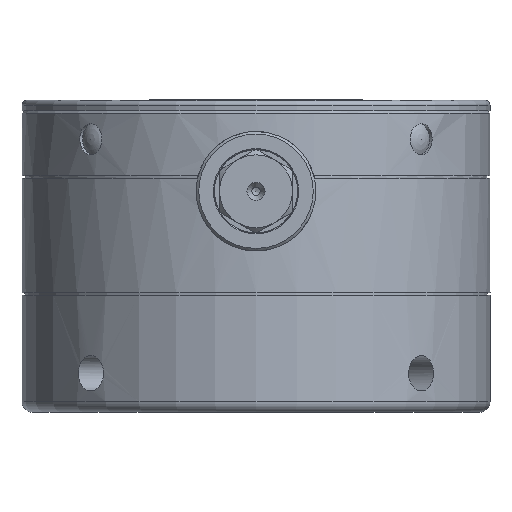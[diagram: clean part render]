
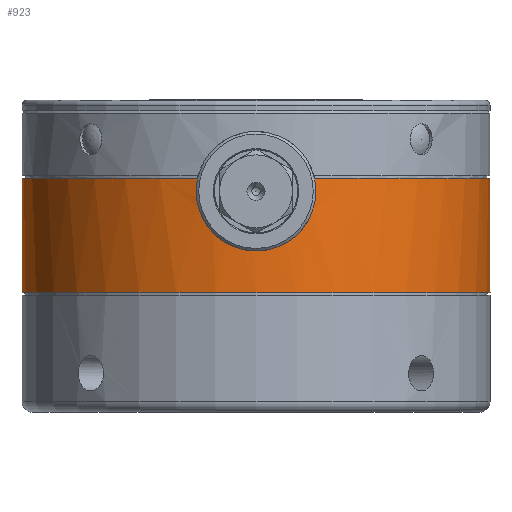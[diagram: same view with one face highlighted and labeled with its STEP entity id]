
A CAD part, left-side view. The second image highlights one B-rep face of the part: STEP entity #923.
In plain terms, the highlighted cylindrical face has radius 45 mm (diameter 90 mm), a full revolution.
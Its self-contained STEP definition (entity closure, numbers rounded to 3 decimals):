
#923 = ADVANCED_FACE( '', ( #2374, #2375 ), #2376, .T. );
#2374 = FACE_OUTER_BOUND( '', #4407, .T. );
#2375 = FACE_OUTER_BOUND( '', #4408, .T. );
#2376 = CYLINDRICAL_SURFACE( '', #4409, 45. );
#4407 = EDGE_LOOP( '', ( #7565, #7566, #7567, #7568 ) );
#4408 = EDGE_LOOP( '', ( #7569 ) );
#4409 = AXIS2_PLACEMENT_3D( '', #7570, #7571, #7572 );
#7565 = ORIENTED_EDGE( '', *, *, #12109, .F. );
#7566 = ORIENTED_EDGE( '', *, *, #12708, .F. );
#7567 = ORIENTED_EDGE( '', *, *, #12709, .F. );
#7568 = ORIENTED_EDGE( '', *, *, #12710, .F. );
#7569 = ORIENTED_EDGE( '', *, *, #12711, .T. );
#7570 = CARTESIAN_POINT( '', ( 0., 0., 54. ) );
#7571 = DIRECTION( '', ( 0., 0., 1. ) );
#7572 = DIRECTION( '', ( 1., 0., 0. ) );
#12109 = EDGE_CURVE( '', #14316, #14318, #14319, .T. );
#12708 = EDGE_CURVE( '', #15326, #14316, #15327, .T. );
#12709 = EDGE_CURVE( '', #15328, #15326, #15329, .T. );
#12710 = EDGE_CURVE( '', #14318, #15328, #15330, .T. );
#12711 = EDGE_CURVE( '', #15331, #15331, #15332, .T. );
#14316 = VERTEX_POINT( '', #18000 );
#14318 = VERTEX_POINT( '', #18003 );
#14319 = B_SPLINE_CURVE_WITH_KNOTS( '', 3, ( #18004, #18005, #18006, #18007, #18008, #18009, #18010, #18011, #18012, #18013, #18014, #18015, #18016, #18017, #18018, #18019, #18020, #18021, #18022, #18023, #18024, #18025 ), .UNSPECIFIED., .F., .F., ( 4, 2, 2, 2, 2, 2, 2, 2, 2, 2, 4 ), ( 0., 0.002, 0.003, 0.004, 0.006, 0.007, 0.008, 0.01, 0.012, 0.014, 0.016 ), .UNSPECIFIED. );
#15326 = VERTEX_POINT( '', #20425 );
#15327 = CIRCLE( '', #20426, 45. );
#15328 = VERTEX_POINT( '', #20427 );
#15329 = B_SPLINE_CURVE_WITH_KNOTS( '', 3, ( #20428, #20429, #20430, #20431, #20432, #20433, #20434, #20435, #20436, #20437, #20438, #20439, #20440, #20441, #20442, #20443, #20444, #20445, #20446, #20447, #20448, #20449, #20450, #20451, #20452, #20453 ), .UNSPECIFIED., .F., .F., ( 4, 2, 2, 2, 2, 2, 2, 2, 2, 2, 2, 2, 4 ), ( 0.025, 0.026, 0.027, 0.029, 0.03, 0.031, 0.033, 0.034, 0.035, 0.037, 0.038, 0.039, 0.041 ), .UNSPECIFIED. );
#15330 = B_SPLINE_CURVE_WITH_KNOTS( '', 3, ( #20454, #20455, #20456, #20457, #20458, #20459, #20460, #20461, #20462, #20463, #20464, #20465, #20466, #20467 ), .UNSPECIFIED., .F., .F., ( 4, 2, 2, 2, 2, 2, 4 ), ( 0.016, 0.018, 0.019, 0.021, 0.023, 0.024, 0.025 ), .UNSPECIFIED. );
#15331 = VERTEX_POINT( '', #20468 );
#15332 = CIRCLE( '', #20469, 45. );
#18000 = CARTESIAN_POINT( '', ( -43.578, 11.225, 45. ) );
#18003 = CARTESIAN_POINT( '', ( -44.8, 4.238, 31.809 ) );
#18004 = CARTESIAN_POINT( '', ( -43.578, 11.225, 45. ) );
#18005 = CARTESIAN_POINT( '', ( -43.539, 11.374, 44.331 ) );
#18006 = CARTESIAN_POINT( '', ( -43.516, 11.461, 43.659 ) );
#18007 = CARTESIAN_POINT( '', ( -43.505, 11.504, 42.645 ) );
#18008 = CARTESIAN_POINT( '', ( -43.505, 11.503, 42.306 ) );
#18009 = CARTESIAN_POINT( '', ( -43.513, 11.472, 41.627 ) );
#18010 = CARTESIAN_POINT( '', ( -43.521, 11.441, 41.285 ) );
#18011 = CARTESIAN_POINT( '', ( -43.558, 11.302, 40.27 ) );
#18012 = CARTESIAN_POINT( '', ( -43.597, 11.152, 39.61 ) );
#18013 = CARTESIAN_POINT( '', ( -43.675, 10.84, 38.647 ) );
#18014 = CARTESIAN_POINT( '', ( -43.704, 10.723, 38.33 ) );
#18015 = CARTESIAN_POINT( '', ( -43.768, 10.458, 37.704 ) );
#18016 = CARTESIAN_POINT( '', ( -43.803, 10.31, 37.395 ) );
#18017 = CARTESIAN_POINT( '', ( -43.914, 9.833, 36.499 ) );
#18018 = CARTESIAN_POINT( '', ( -43.995, 9.466, 35.935 ) );
#18019 = CARTESIAN_POINT( '', ( -44.166, 8.636, 34.876 ) );
#18020 = CARTESIAN_POINT( '', ( -44.255, 8.168, 34.377 ) );
#18021 = CARTESIAN_POINT( '', ( -44.429, 7.164, 33.479 ) );
#18022 = CARTESIAN_POINT( '', ( -44.513, 6.626, 33.077 ) );
#18023 = CARTESIAN_POINT( '', ( -44.669, 5.48, 32.367 ) );
#18024 = CARTESIAN_POINT( '', ( -44.741, 4.866, 32.058 ) );
#18025 = CARTESIAN_POINT( '', ( -44.8, 4.238, 31.809 ) );
#20425 = CARTESIAN_POINT( '', ( -43.578, -11.225, 45. ) );
#20426 = AXIS2_PLACEMENT_3D( '', #25059, #25060, #25061 );
#20427 = CARTESIAN_POINT( '', ( -44.8, -4.238, 31.809 ) );
#20428 = CARTESIAN_POINT( '', ( -44.8, -4.238, 31.809 ) );
#20429 = CARTESIAN_POINT( '', ( -44.77, -4.551, 31.934 ) );
#20430 = CARTESIAN_POINT( '', ( -44.738, -4.859, 32.071 ) );
#20431 = CARTESIAN_POINT( '', ( -44.668, -5.463, 32.375 ) );
#20432 = CARTESIAN_POINT( '', ( -44.631, -5.761, 32.541 ) );
#20433 = CARTESIAN_POINT( '', ( -44.513, -6.627, 33.077 ) );
#20434 = CARTESIAN_POINT( '', ( -44.429, -7.165, 33.48 ) );
#20435 = CARTESIAN_POINT( '', ( -44.299, -7.916, 34.151 ) );
#20436 = CARTESIAN_POINT( '', ( -44.255, -8.156, 34.386 ) );
#20437 = CARTESIAN_POINT( '', ( -44.168, -8.619, 34.879 ) );
#20438 = CARTESIAN_POINT( '', ( -44.123, -8.841, 35.138 ) );
#20439 = CARTESIAN_POINT( '', ( -43.995, -9.466, 35.936 ) );
#20440 = CARTESIAN_POINT( '', ( -43.914, -9.833, 36.498 ) );
#20441 = CARTESIAN_POINT( '', ( -43.804, -10.307, 37.389 ) );
#20442 = CARTESIAN_POINT( '', ( -43.769, -10.453, 37.694 ) );
#20443 = CARTESIAN_POINT( '', ( -43.705, -10.718, 38.319 ) );
#20444 = CARTESIAN_POINT( '', ( -43.675, -10.838, 38.64 ) );
#20445 = CARTESIAN_POINT( '', ( -43.597, -11.151, 39.608 ) );
#20446 = CARTESIAN_POINT( '', ( -43.558, -11.301, 40.266 ) );
#20447 = CARTESIAN_POINT( '', ( -43.522, -11.439, 41.271 ) );
#20448 = CARTESIAN_POINT( '', ( -43.514, -11.471, 41.609 ) );
#20449 = CARTESIAN_POINT( '', ( -43.505, -11.503, 42.293 ) );
#20450 = CARTESIAN_POINT( '', ( -43.505, -11.504, 42.636 ) );
#20451 = CARTESIAN_POINT( '', ( -43.516, -11.462, 43.657 ) );
#20452 = CARTESIAN_POINT( '', ( -43.539, -11.374, 44.331 ) );
#20453 = CARTESIAN_POINT( '', ( -43.578, -11.225, 45. ) );
#20454 = CARTESIAN_POINT( '', ( -44.8, 4.238, 31.809 ) );
#20455 = CARTESIAN_POINT( '', ( -44.863, 3.568, 31.544 ) );
#20456 = CARTESIAN_POINT( '', ( -44.914, 2.878, 31.342 ) );
#20457 = CARTESIAN_POINT( '', ( -44.965, 1.811, 31.138 ) );
#20458 = CARTESIAN_POINT( '', ( -44.978, 1.447, 31.086 ) );
#20459 = CARTESIAN_POINT( '', ( -44.996, 0.723, 31.017 ) );
#20460 = CARTESIAN_POINT( '', ( -45., 0.361, 31. ) );
#20461 = CARTESIAN_POINT( '', ( -45., -0.721, 31. ) );
#20462 = CARTESIAN_POINT( '', ( -44.983, -1.44, 31.067 ) );
#20463 = CARTESIAN_POINT( '', ( -44.931, -2.515, 31.272 ) );
#20464 = CARTESIAN_POINT( '', ( -44.91, -2.869, 31.358 ) );
#20465 = CARTESIAN_POINT( '', ( -44.86, -3.563, 31.56 ) );
#20466 = CARTESIAN_POINT( '', ( -44.832, -3.904, 31.677 ) );
#20467 = CARTESIAN_POINT( '', ( -44.8, -4.238, 31.809 ) );
#20468 = CARTESIAN_POINT( '', ( 45., 0., 23. ) );
#20469 = AXIS2_PLACEMENT_3D( '', #25062, #25063, #25064 );
#25059 = CARTESIAN_POINT( '', ( 0., 0., 45. ) );
#25060 = DIRECTION( '', ( 0., 0., 1. ) );
#25061 = DIRECTION( '', ( 1., 0., 0. ) );
#25062 = CARTESIAN_POINT( '', ( 0., 0., 23. ) );
#25063 = DIRECTION( '', ( 0., 0., 1. ) );
#25064 = DIRECTION( '', ( 1., 0., 0. ) );
